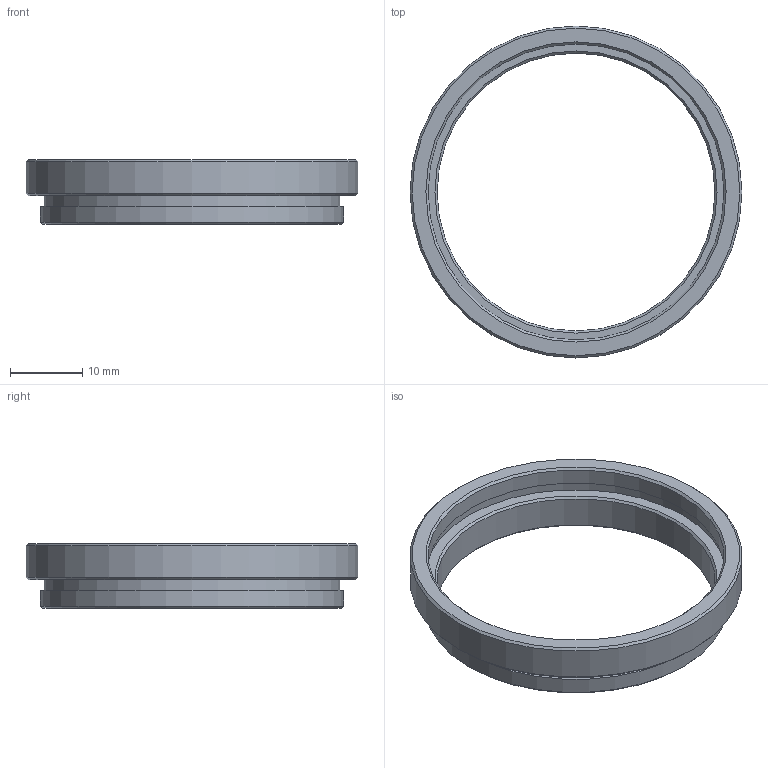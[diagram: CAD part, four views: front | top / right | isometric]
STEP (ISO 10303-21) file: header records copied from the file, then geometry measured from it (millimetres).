
FILE_DESCRIPTION (( 'STEP AP203' ), '1' );
FILE_NAME ('EXR-M42-L5_A23327B0200101A-001.STEP', '2019-03-13T00:04:52', ( '' ), ( '' ), 'SwSTEP 2.0', 'SolidWorks 2014', '' );
FILE_SCHEMA (( 'CONFIG_CONTROL_DESIGN' ));
Length unit declared in the file: millimetre
Products named in the file (1): EXR-M42-L5_A23327B0200101A-001
Bounding box: 46 x 46 x 9 mm (x, y, z)
Volume: 2518.3 mm3; surface area: 3487.4 mm2
Topology: 1 solids, 1 shells, 18 faces, 33 edges, 21 vertices
Faces by surface type: cylinder 6, plane 6, cone 6
Full cylindrical faces by diameter (mm): 38.5 x1, 41 x2, 42 x2, 46 x1
Entity records: 445 total; most frequent: DIRECTION 74, CARTESIAN_POINT 55, AXIS2_PLACEMENT_3D 37, EDGE_LOOP 36, ORIENTED_EDGE 36, FACE_OUTER_BOUND 24, VERTEX_POINT 18, EDGE_CURVE 18
